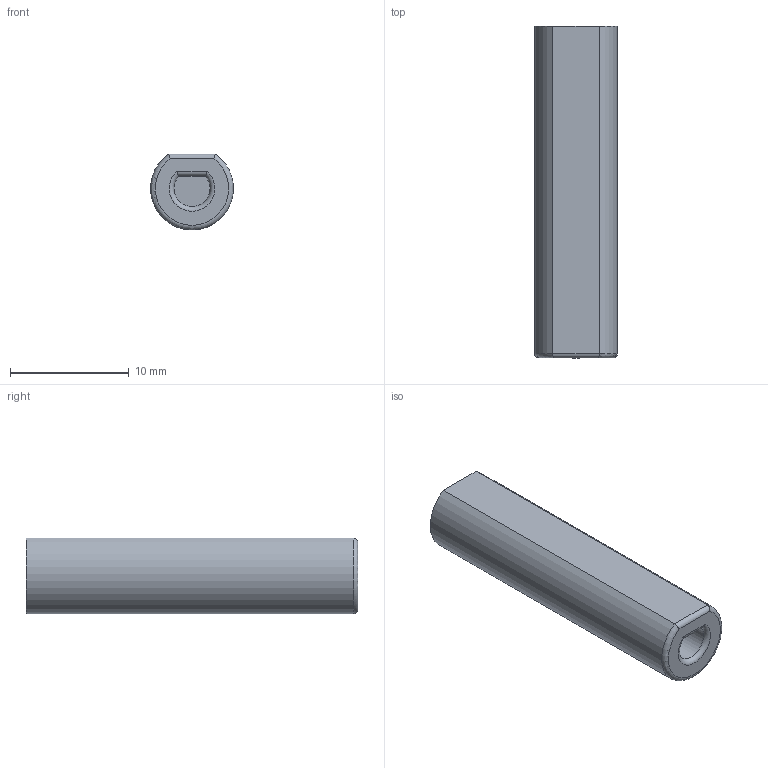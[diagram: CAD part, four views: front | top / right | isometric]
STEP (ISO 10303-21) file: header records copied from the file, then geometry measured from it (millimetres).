
FILE_DESCRIPTION(('Open CASCADE Model'),'2;1');
FILE_NAME('Open CASCADE Shape Model','2026-11-11T07:15:58',('Author'),( 'Open CASCADE'),'Open CASCADE STEP processor 8.0','build123d', 'Unknown');
FILE_SCHEMA(('AUTOMOTIVE_DESIGN { 1 0 10303 214 1 1 1 1 }'));
Length unit declared in the file: millimetre
Products named in the file (1): COMPOUND
Bounding box: 6.99 x 27.98 x 6.4 mm (x, y, z)
Volume: 929.9 mm3; surface area: 827 mm2
Topology: 1 solids, 1 shells, 13 faces, 23 edges, 14 vertices
Faces by surface type: plane 6, cylinder 5, torus 2
Full cylindrical faces by diameter (mm): 2.5 x1
Entity records: 754 total; most frequent: CARTESIAN_POINT 283, DIRECTION 79, ORIENTED_EDGE 46, PCURVE 46, DEFINITIONAL_REPRESENTATION 46, LINE 31, VECTOR 31, B_SPLINE_CURVE_WITH_KNOTS 24
